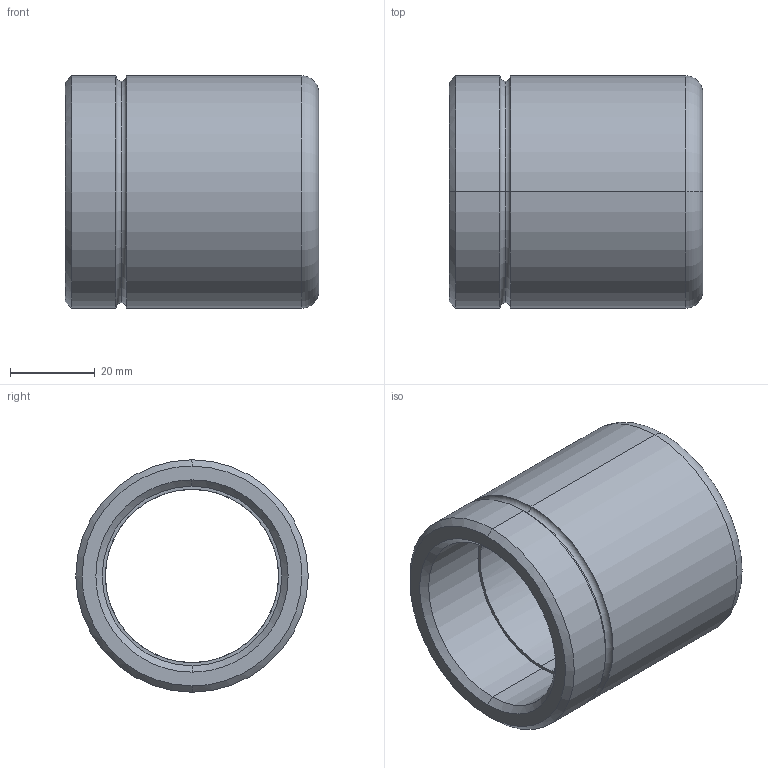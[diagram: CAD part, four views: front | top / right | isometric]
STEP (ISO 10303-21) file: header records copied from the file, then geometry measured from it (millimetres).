
FILE_DESCRIPTION(('CATIA V5 STEP Exchange'),'2;1');
FILE_NAME('C:\Users\Utente\Desktop\IO LAVORO\3D X SITO CF\X SITO\3D files 347\347-41 x 60.stp','2021-01-01T09:44:31+00:00',('none'),('none'),'CATIA Version 5 Release 20 GA (IN-10)','CATIA V5 STEP AP203','none');
FILE_SCHEMA(('CONFIG_CONTROL_DESIGN'));
Length unit declared in the file: millimetre
Products named in the file (1): 347-41 x 60
Bounding box: 60 x 55 x 55 mm (x, y, z)
Volume: 59732 mm3; surface area: 20139.6 mm2
Topology: 1 solids, 1 shells, 29 faces, 86 edges, 60 vertices
Faces by surface type: torus 12, cylinder 10, cone 4, plane 3
Entity records: 1154 total; most frequent: CARTESIAN_POINT 344, ORIENTED_EDGE 172, DIRECTION 132, AXIS2_PLACEMENT_3D 90, EDGE_CURVE 86, CIRCLE 60, VERTEX_POINT 60, EDGE_LOOP 32
